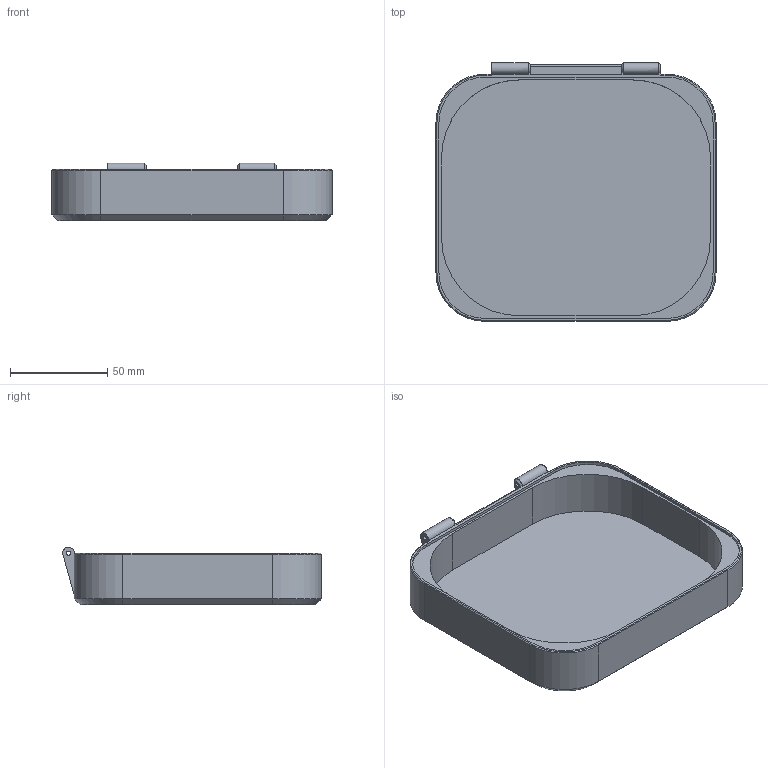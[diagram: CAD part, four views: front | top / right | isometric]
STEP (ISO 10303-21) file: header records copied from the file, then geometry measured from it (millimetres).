
FILE_DESCRIPTION(('HOOPS Exchange Step'),'2;1');
FILE_NAME('/Users/ridzwannormahazan/Library/Containers/com.shapr3d.shapr/Data/tmp/export/temp_export','2026-06-30T13:27:54+09:00',('ridzwannormahazan'),('Shapr3D Limited'),'HOOPS Exchange 2026.3','Shapr3D','Authorized');
FILE_SCHEMA( ('AP242_MANAGED_MODEL_BASED_3D_ENGINEERING_MIM_LF {1 0 10303 442 1 1 4}') );
Length unit declared in the file: millimetre
Products named in the file (2): MAS ver; root
Assembly tree (1 placements, depth 2):
  root
    MAS ver
Bounding box: 144 x 132.99 x 29.5 mm (x, y, z)
Volume: 93901.4 mm3; surface area: 59915.4 mm2
Topology: 1 solids, 1 shells, 65 faces, 167 edges, 106 vertices
Faces by surface type: plane 36, cylinder 16, cone 13
Full cylindrical faces by diameter (mm): 2.2 x2
Entity records: 2032 total; most frequent: DIRECTION 355, CARTESIAN_POINT 342, ORIENTED_EDGE 334, EDGE_CURVE 167, AXIS2_PLACEMENT_3D 119, VECTOR 117, LINE 117, VERTEX_POINT 106
